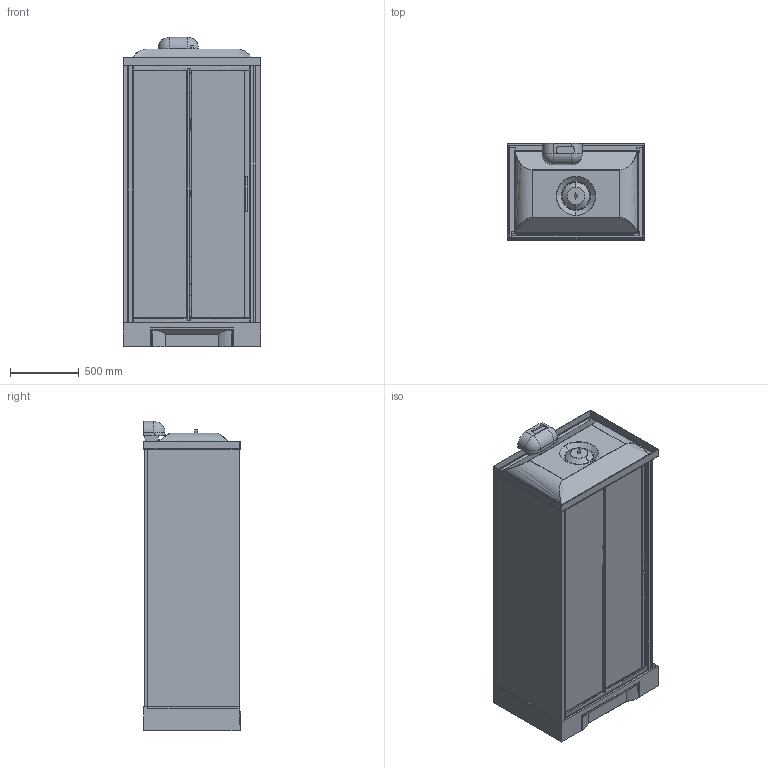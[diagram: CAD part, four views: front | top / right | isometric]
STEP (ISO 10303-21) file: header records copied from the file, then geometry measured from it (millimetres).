
FILE_DESCRIPTION(('STEP AP203'),'2;1');
FILE_NAME('NNH 2P 100 S T 19 N.stp','2015-09-08T08:55:09',(''),(''),'2014.1.117','THINKDESIGN','');
FILE_SCHEMA(('CONFIG_CONTROL_DESIGN'));
Length unit declared in the file: millimetre
Products named in the file (1): top
Bounding box: 1004.05 x 707.71 x 2254.9 mm (x, y, z)
Volume: 234945253.3 mm3; surface area: 19965730.5 mm2
Topology: 39 solids, 39 shells, 786 faces, 1981 edges, 1294 vertices
Faces by surface type: bspline 343, plane 341, cylinder 102
Entity records: 70852 total; most frequent: CARTESIAN_POINT 54568, ORIENTED_EDGE 3778, DIRECTION 2430, EDGE_CURVE 1889, VERTEX_POINT 1222, VECTOR 952, LINE 952, EDGE_LOOP 799
